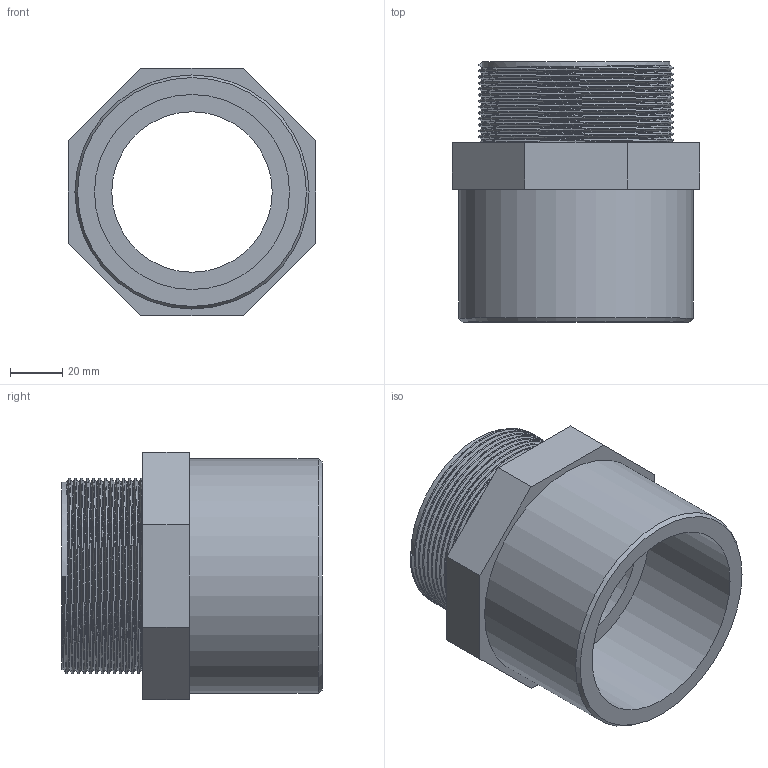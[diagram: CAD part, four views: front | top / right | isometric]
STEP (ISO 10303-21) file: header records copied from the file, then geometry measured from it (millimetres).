
FILE_DESCRIPTION(/* description */ ('PVC adattatore incollaggio-filettatura BSP maschio'),/* implementation_level */ '2;1');
FILE_NAME(/* name */ 'C:\Users\POLYPIPE\Desktop\DATASET INVENTOR\LIBRERIA EFFAST\RACCORDI 3DxWEB\RGR\3D_RGRAMG\3D_RGRAMG075H.stp',/* time_stamp */ '2018-01-19T17:37:06+01:00',/* author */ ('POLYPIPE'),/* organization */ ('Polypipe Italia s.r.l.'),/* preprocessor_version */ 'ST-DEVELOPER v16.1',/* originating_system */ 'Autodesk Inventor 2016',/* authorisation */ '');
FILE_SCHEMA (('CONFIG_CONTROL_DESIGN'));
Length unit declared in the file: millimetre
Products named in the file (1): 3D_RGRAMG
Bounding box: 95 x 100 x 95 mm (x, y, z)
Volume: 225189.9 mm3; surface area: 62129.7 mm2
Topology: 1 solids, 1 shells, 26 faces, 56 edges, 36 vertices
Faces by surface type: plane 15, cylinder 5, bspline 5, cone 1
Full cylindrical faces by diameter (mm): 61.7 x1, 62.7 x1, 72.226 x1, 75 x1, 90 x1
Entity records: 5571 total; most frequent: CARTESIAN_POINT 5018, ORIENTED_EDGE 102, DIRECTION 97, EDGE_CURVE 51, EDGE_LOOP 37, VERTEX_POINT 36, AXIS2_PLACEMENT_3D 35, LINE 27
